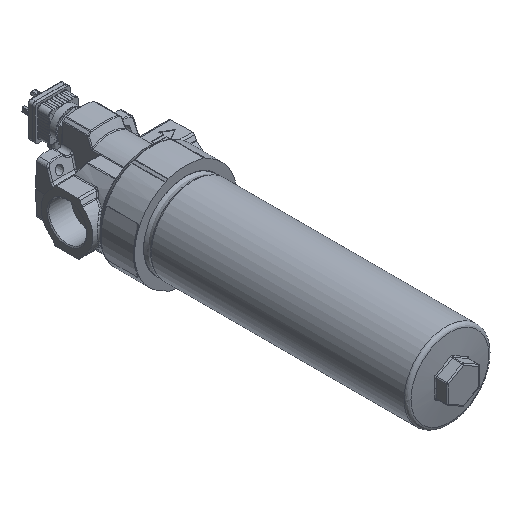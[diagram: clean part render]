
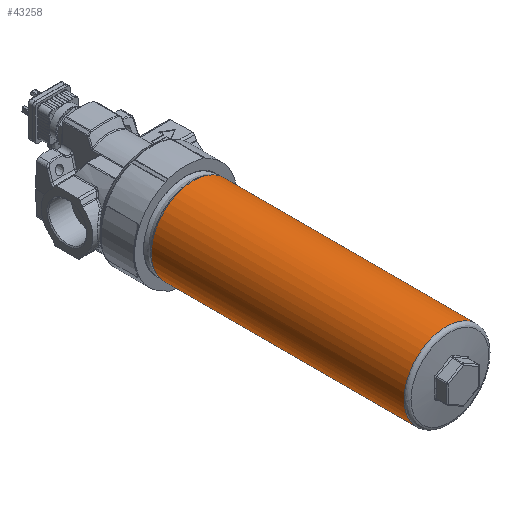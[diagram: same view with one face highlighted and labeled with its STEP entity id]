
A CAD part, isometric view. The second image highlights one B-rep face of the part: STEP entity #43258.
In plain terms, the highlighted free-form (B-spline) face has degree [2, 1] with [7, 2] control points.
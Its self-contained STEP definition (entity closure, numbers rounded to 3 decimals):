
#43148=CARTESIAN_POINT('V44',(-35.0,-220.024,0.0));
#43149=VERTEX_POINT('V44',#43148);
#43163=CARTESIAN_POINT('E48',(-35.0,-220.024,0.0));
#43164=CARTESIAN_POINT('E48',(-35.0,-220.024,
   1.718));
#43165=CARTESIAN_POINT('E48',(-34.746,
   -220.024,5.156));
#43166=CARTESIAN_POINT('E48',(-33.613,
   -220.024,10.199));
#43167=CARTESIAN_POINT('E48',(-31.752,
   -220.024,15.023));
#43168=CARTESIAN_POINT('E48',(-29.204,
   -220.024,19.52));
#43169=CARTESIAN_POINT('E48',(-26.023,
   -220.024,23.595));
#43170=CARTESIAN_POINT('E48',(-22.278,
   -220.024,27.159));
#43171=CARTESIAN_POINT('E48',(-18.05,
   -220.024,30.134));
#43172=CARTESIAN_POINT('E48',(-13.018,
   -220.024,32.666));
#43173=CARTESIAN_POINT('E48',(-7.181,
   -220.024,34.464));
#43174=CARTESIAN_POINT('E48',(-0.65,
   -220.024,35.199));
#43175=CARTESIAN_POINT('E48',(5.904,-220.024,
   34.706));
#43176=CARTESIAN_POINT('E48',(12.515,
   -220.024,32.933));
#43177=CARTESIAN_POINT('E48',(18.9,
   -220.024,29.766));
#43178=CARTESIAN_POINT('E48',(24.569,
   -220.024,25.266));
#43179=CARTESIAN_POINT('E48',(29.104,
   -220.024,19.845));
#43180=CARTESIAN_POINT('E48',(32.416,
   -220.024,13.786));
#43181=CARTESIAN_POINT('E48',(34.483,
   -220.024,7.197));
#43182=CARTESIAN_POINT('E48',(35.217,
   -220.024,0.396));
#43183=CARTESIAN_POINT('E48',(34.635,
   -220.024,-6.353));
#43184=CARTESIAN_POINT('E48',(32.802,
   -220.024,-12.807));
#43185=CARTESIAN_POINT('E48',(29.777,
   -220.024,-18.796));
#43186=CARTESIAN_POINT('E48',(25.716,
   -220.024,-24.045));
#43187=CARTESIAN_POINT('E48',(20.803,
   -220.024,-28.394));
#43188=CARTESIAN_POINT('E48',(15.237,
   -220.024,-31.731));
#43189=CARTESIAN_POINT('E48',(9.153,-220.024,
   -33.988));
#43190=CARTESIAN_POINT('E48',(1.877,-220.024,
   -35.244));
#43191=CARTESIAN_POINT('E48',(-6.428,
   -220.024,-34.812));
#43192=CARTESIAN_POINT('E48',(-14.325,
   -220.024,-32.254));
#43193=CARTESIAN_POINT('E48',(-20.649,
   -220.024,-28.503));
#43194=CARTESIAN_POINT('E48',(-25.559,
   -220.024,-24.208));
#43195=CARTESIAN_POINT('E48',(-29.637,
   -220.024,-19.013));
#43196=CARTESIAN_POINT('E48',(-32.696,
   -220.024,-13.069));
#43197=CARTESIAN_POINT('E48',(-34.577,
   -220.024,-6.655));
#43198=CARTESIAN_POINT('E48',(-35.0,-220.024,
   -2.217));
#43199=CARTESIAN_POINT('E48',(-35.0,-220.024,0.0));
#43200=B_SPLINE_CURVE_WITH_KNOTS('E48',3,(#43163,#43164,#43165,
   #43166,#43167,#43168,#43169,#43170,#43171,#43172,#43173,#43174,
   #43175,#43176,#43177,#43178,#43179,#43180,#43181,#43182,#43183,
   #43184,#43185,#43186,#43187,#43188,#43189,#43190,#43191,#43192,
   #43193,#43194,#43195,#43196,#43197,#43198,#43199),.UNSPECIFIED.,
   .T.,.U.,(4,1,1,1,1,1,1,1,1,1,1,1,1,1,1,1,1,1,1,1,1,1,1,1,1,1,1,1,
   1,1,1,1,1,1,4),(2.0,3.059,4.118,
   5.177,6.235,7.294,
   8.353,9.412,10.471,
   11.815,13.158,14.502,
   15.846,17.357,18.868,
   20.28,21.691,23.102,
   24.513,25.885,27.256,
   28.627,29.999,31.326,
   32.653,33.98,35.307,
   37.182,39.058,40.375,
   41.693,43.06,44.426,
   45.793,47.159),.UNSPECIFIED.);
#43201=EDGE_CURVE('E48',#43149,#43149,#43200,.T.);
#43208=CARTESIAN_POINT('F6',(-35.0,-10.438,0.0));
#43209=CARTESIAN_POINT('F6',(-35.0,-10.438,
   -60.622));
#43210=CARTESIAN_POINT('F6',(17.5,-10.438,
   -30.311));
#43211=CARTESIAN_POINT('F6',(70.0,-10.438,0.)
   );
#43212=CARTESIAN_POINT('F6',(17.5,-10.438,
   30.311));
#43213=CARTESIAN_POINT('F6',(-35.0,-10.438,
   60.622));
#43214=CARTESIAN_POINT('F6',(-35.0,-10.438,0.0));
#43215=CARTESIAN_POINT('F6',(-35.0,-222.773,0.0));
#43216=CARTESIAN_POINT('F6',(-35.0,-222.773,
   -60.622));
#43217=CARTESIAN_POINT('F6',(17.5,-222.773,
   -30.311));
#43218=CARTESIAN_POINT('F6',(70.0,-222.773,
   0.));
#43219=CARTESIAN_POINT('F6',(17.5,-222.773,
   30.311));
#43220=CARTESIAN_POINT('F6',(-35.0,-222.773,
   60.622));
#43221=CARTESIAN_POINT('F6',(-35.0,-222.773,0.0));
#43229=(BOUNDED_SURFACE()B_SPLINE_SURFACE(2,1,((#43208,#43215),(
   #43209,#43216),(#43210,#43217),(#43211,#43218),(#43212,
   #43219),(#43213,#43220),(#43214,#43221)),.CYLINDRICAL_SURF.,
   .T.,.F.,.U.)B_SPLINE_SURFACE_WITH_KNOTS((3,2,2,3),(2,2),(0.0,
   0.571,1.142,1.713),(0.0,1.0),
   .UNSPECIFIED.)GEOMETRIC_REPRESENTATION_ITEM()
   RATIONAL_B_SPLINE_SURFACE(((1.0,1.0),(0.5,
   0.5),(1.0,1.0),(0.5,
   0.5),(1.0,1.0),(0.5,
   0.5),(1.0,1.0)))REPRESENTATION_ITEM('F6')SURFACE()
   );
#43230=ORIENTED_EDGE('E48',*,*,#43201,.T.);
#43231=CARTESIAN_POINT('V43',(-35.0,-10.438,0.0));
#43232=VERTEX_POINT('V43',#43231);
#43233=CARTESIAN_POINT('E49',(-35.0,-220.024,0.0));
#43234=CARTESIAN_POINT('E49',(-35.0,-10.438,0.0));
#43235=B_SPLINE_CURVE_WITH_KNOTS('E49',1,(#43233,#43234),
   .POLYLINE_FORM.,.F.,.U.,(2,2),(0.013,1.0),
   .UNSPECIFIED.);
#43236=EDGE_CURVE('E49',#43149,#43232,#43235,.T.);
#43237=ORIENTED_EDGE('E49',*,*,#43236,.T.);
#43238=CARTESIAN_POINT('E47',(-35.0,-10.438,0.0));
#43239=CARTESIAN_POINT('E47',(-35.0,-10.438,
   -60.622));
#43240=CARTESIAN_POINT('E47',(17.5,-10.438,
   -30.311));
#43241=CARTESIAN_POINT('E47',(70.0,-10.438,
   0.));
#43242=CARTESIAN_POINT('E47',(17.5,-10.438,
   30.311));
#43243=CARTESIAN_POINT('E47',(-35.0,-10.438,
   60.622));
#43244=CARTESIAN_POINT('E47',(-35.0,-10.438,0.0));
#43252=(BOUNDED_CURVE()B_SPLINE_CURVE(2,(#43238,#43239,#43240,
   #43241,#43242,#43243,#43244),.CIRCULAR_ARC.,.T.,.U.)
   B_SPLINE_CURVE_WITH_KNOTS((3,2,2,3),(0.0,0.571,
   1.142,1.713),.UNSPECIFIED.)CURVE()
   GEOMETRIC_REPRESENTATION_ITEM()RATIONAL_B_SPLINE_CURVE((1.0,
   0.5,1.0,0.5,1.0,0.5,1.0)
   )REPRESENTATION_ITEM('E47'));
#43253=EDGE_CURVE('E47',#43232,#43232,#43252,.T.);
#43254=ORIENTED_EDGE('E47',*,*,#43253,.T.);
#43255=ORIENTED_EDGE('E49',*,*,#43236,.F.);
#43256=EDGE_LOOP('F6',(#43230,#43237,#43254,#43255));
#43257=FACE_OUTER_BOUND('F6',#43256,.T.);
#43258=ADVANCED_FACE('F6',(#43257),#43229,.T.);
